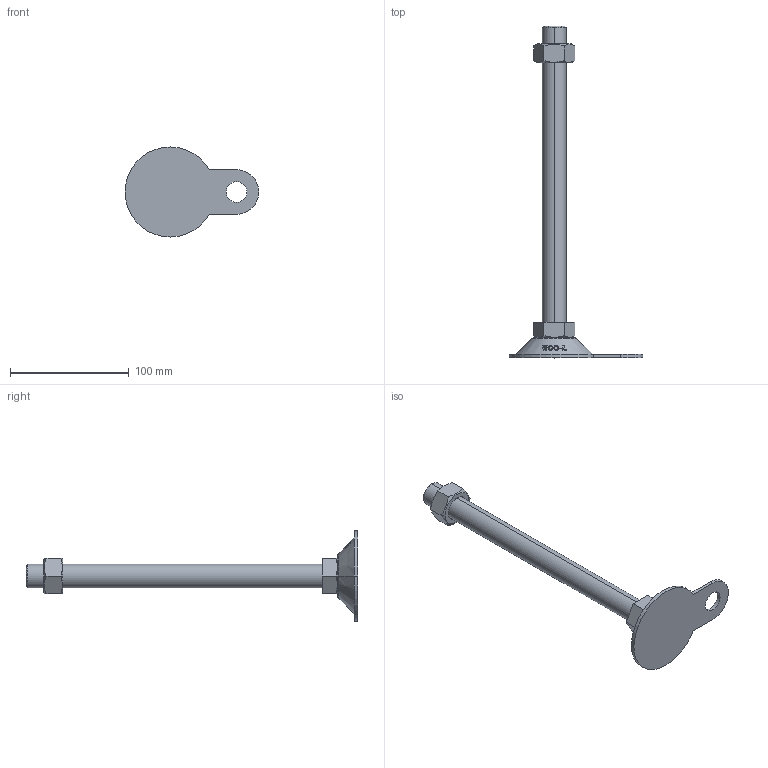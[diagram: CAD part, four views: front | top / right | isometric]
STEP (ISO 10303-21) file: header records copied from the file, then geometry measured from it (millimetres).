
FILE_DESCRIPTION (( 'STEP AP214' ), '1' );
FILE_NAME ('ABL76-M20-250.step', '2021-02-05T04:21:05', ( '' ), ( '' ), 'SwSTEP 2.0', 'SolidWorks 2019', '' );
FILE_SCHEMA (( 'AUTOMOTIVE_DESIGN' ));
Length unit declared in the file: millimetre
Products named in the file (2): ABL76-M20-250
Bounding box: 112.8 x 280 x 76 mm (x, y, z)
Volume: 141417.9 mm3; surface area: 33882.1 mm2
Topology: 2 solids, 2 shells, 128 faces, 325 edges, 212 vertices
Faces by surface type: plane 48, cylinder 38, cone 22, bspline 18, torus 2
Entity records: 5487 total; most frequent: CARTESIAN_POINT 2601, ORIENTED_EDGE 650, DIRECTION 473, EDGE_CURVE 325, VERTEX_POINT 212, AXIS2_PLACEMENT_3D 176, EDGE_LOOP 143, B_SPLINE_CURVE_WITH_KNOTS 140
